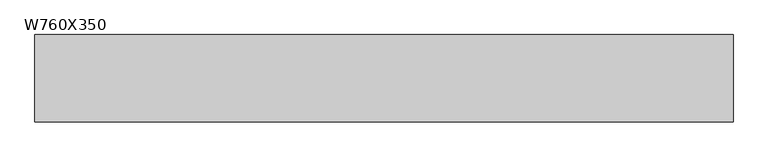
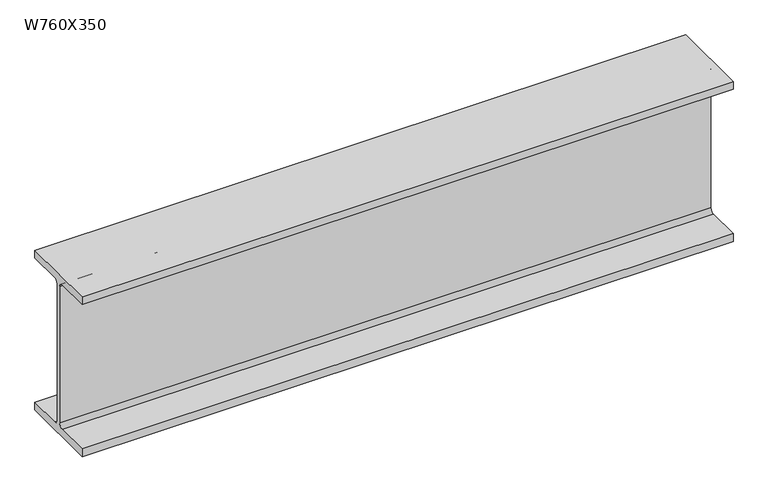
"""IFC4 building model written with IfcOpenShell, lengths in millimetres: beam geometry, M_W Shapes : W760X350."""

import ifcopenshell
import ifcopenshell.guid

model = None  # the IFC model being written
_history = None  # IfcOwnerHistory: only IFC2X3 demands one
_inside = {}  # id of a spatial element -> (the spatial element, [elements in it])
_under = {}  # id of a project, library or spatial element -> (it, [spatial elements below it])
_declared = {}  # id of a project -> (the project, [libraries it declares])
_typed = {}  # id of a type object -> (the type object, [elements of that type])
_made_of = {}  # id of a material, layer set ... -> (it, [elements and type objects made of it])


def new_model(schema):
    """Start an empty IFC model of exactly this schema.

    Asked for "IFC4X3", IfcOpenShell would pick the latest addendum, in which some entities
    have other attributes; the version numbers below select the first issue.
    IFC2X3 requires an IfcOwnerHistory on every rooted entity: one is made here for all.
    """
    global model, _history
    if schema == "IFC4X3":
        model = ifcopenshell.file(schema_version=(4, 3, 0, 0))
    else:
        model = ifcopenshell.file(schema=schema)
    _inside.clear()
    _under.clear()
    _declared.clear()
    _typed.clear()
    _made_of.clear()
    _history = None
    if model.schema == "IFC2X3":
        org = make("IfcOrganization", Name="unknown")
        user = make(
            "IfcPersonAndOrganization",
            ThePerson=make("IfcPerson", FamilyName="unknown"),
            TheOrganization=org,
        )
        app = make(
            "IfcApplication",
            ApplicationDeveloper=org,
            Version="unknown",
            ApplicationFullName="unknown",
            ApplicationIdentifier="unknown",
        )
        _history = make(
            "IfcOwnerHistory",
            OwningUser=user,
            OwningApplication=app,
            ChangeAction="ADDED",
            CreationDate=0,
        )
    return model


def make(cls, **values):
    """One entity of the class cls with the attributes given. An attribute that is None is left unset."""
    return model.create_entity(
        cls, **{name: value for name, value in values.items() if value is not None}
    )


def rooted(cls, **values):
    """An entity with a GlobalId (a new one), such as an element, a storey or a relation."""
    return make(cls, GlobalId=ifcopenshell.guid.new(), OwnerHistory=_history, **values)


def si_unit(unit_type, name, prefix=None):
    """IfcSIUnit, for example si_unit("LENGTHUNIT", "METRE", prefix="MILLI")."""
    return make("IfcSIUnit", UnitType=unit_type, Prefix=prefix, Name=name)


def assignment(units):
    """IfcUnitAssignment: the units of a project."""
    return None if units is None else make("IfcUnitAssignment", Units=units)


def point(xyz):
    """IfcCartesianPoint."""
    return None if xyz is None else make("IfcCartesianPoint", Coordinates=xyz)


def direction(xyz):
    """IfcDirection."""
    return None if xyz is None else make("IfcDirection", DirectionRatios=xyz)


def frame(location, z_axis=None, x_axis=None):
    """IfcAxis2Placement3D, a coordinate frame: its origin and axes. An axis left out is left unset."""
    return make(
        "IfcAxis2Placement3D",
        Location=point(location),
        Axis=direction(z_axis),
        RefDirection=direction(x_axis),
    )


def frame_2d(location, x_axis=None):
    """IfcAxis2Placement2D, a coordinate frame in the plane: its origin and x axis."""
    return make(
        "IfcAxis2Placement2D", Location=point(location), RefDirection=direction(x_axis)
    )


def origin():
    """The frame at (0, 0, 0) with its axes left unset."""
    return frame((0.0, 0.0, 0.0))


def place(relative_to, where):
    """IfcLocalPlacement: puts the frame where relative to a parent placement (None: the world)."""
    return make(
        "IfcLocalPlacement", PlacementRelTo=relative_to, RelativePlacement=where
    )


def context(
    kind, dimensions, precision=None, world=None, true_north=None, identifier=None
):
    """IfcGeometricRepresentationContext, for example the 3D "Model" context."""
    return make(
        "IfcGeometricRepresentationContext",
        ContextIdentifier=identifier,
        ContextType=kind,
        CoordinateSpaceDimension=dimensions,
        Precision=precision,
        WorldCoordinateSystem=world,
        TrueNorth=true_north,
    )


def project(units=None, contexts=None):
    """IfcProject with its units and contexts."""
    return rooted(
        "IfcProject",
        Name="project",
        RepresentationContexts=contexts,
        UnitsInContext=assignment(units),
    )


def spatial(cls, under=None, at=None, **own):
    """A site, building, storey or space (cls), placed at a placement, below another one or the project."""
    s = rooted(cls, ObjectPlacement=at, **own)
    if under is not None:
        _under.setdefault(under.id(), (under, []))[1].append(s)
    return s


def polyline(points):
    """IfcPolyline through the points."""
    return make("IfcPolyline", Points=[point(p) for p in points])


def circle_curve(where, radius):
    """IfcCircle in the frame where."""
    return make("IfcCircle", Position=where, Radius=radius)


def trimmed(basis, trim1, trim2, sense, master):
    """IfcTrimmedCurve: the piece of a basis curve between two trims."""
    return make(
        "IfcTrimmedCurve",
        BasisCurve=basis,
        Trim1=trim1,
        Trim2=trim2,
        SenseAgreement=sense,
        MasterRepresentation=master,
    )


def segment(curve, same_sense, transition):
    """IfcCompositeCurveSegment."""
    return make(
        "IfcCompositeCurveSegment",
        Transition=transition,
        SameSense=same_sense,
        ParentCurve=curve,
    )


def composite_curve(segments, self_intersect=None):
    """IfcCompositeCurve: segments joined end to end."""
    return make("IfcCompositeCurve", Segments=segments, SelfIntersect=self_intersect)


def outline(outer, holes=None, kind="AREA"):
    """IfcArbitraryClosedProfileDef: a profile drawn as a closed curve; with holes, ...WithVoids."""
    if holes is None:
        return make("IfcArbitraryClosedProfileDef", ProfileType=kind, OuterCurve=outer)
    return make(
        "IfcArbitraryProfileDefWithVoids",
        ProfileType=kind,
        OuterCurve=outer,
        InnerCurves=holes,
    )


def extrude(swept, where, along, depth):
    """IfcExtrudedAreaSolid: the profile swept, set in the frame where, extruded along a direction by depth."""
    return make(
        "IfcExtrudedAreaSolid",
        SweptArea=swept,
        Position=where,
        ExtrudedDirection=direction(along),
        Depth=depth,
    )


def shape(context_of_items, identifier, shape_type, items):
    """IfcShapeRepresentation: the items that make up one representation, for example the "Body"."""
    return make(
        "IfcShapeRepresentation",
        ContextOfItems=context_of_items,
        RepresentationIdentifier=identifier,
        RepresentationType=shape_type,
        Items=items,
    )


def source(mapping_origin, context_of_items, identifier, shape_type, items):
    """IfcRepresentationMap: a shape defined once, which mapped items show again and again."""
    return make(
        "IfcRepresentationMap",
        MappingOrigin=mapping_origin,
        MappedRepresentation=shape(context_of_items, identifier, shape_type, items),
    )


def transform(
    local_origin,
    x_axis=None,
    y_axis=None,
    z_axis=None,
    scale=None,
    scale2=None,
    scale3=None,
    uniform=True,
):
    """IfcCartesianTransformationOperator3D, or its non-uniform kind. x_axis, y_axis, z_axis: its Axis1, 2, 3."""
    if uniform:
        return make(
            "IfcCartesianTransformationOperator3D",
            Axis1=direction(x_axis),
            Axis2=direction(y_axis),
            LocalOrigin=point(local_origin),
            Scale=scale,
            Axis3=direction(z_axis),
        )
    return make(
        "IfcCartesianTransformationOperator3DnonUniform",
        Axis1=direction(x_axis),
        Axis2=direction(y_axis),
        LocalOrigin=point(local_origin),
        Scale=scale,
        Axis3=direction(z_axis),
        Scale2=scale2,
        Scale3=scale3,
    )


def mapped(mapping_source, mapping_target):
    """IfcMappedItem: shows the shape of a source again, moved by a transform."""
    return make(
        "IfcMappedItem", MappingSource=mapping_source, MappingTarget=mapping_target
    )


def made_of(thing, what):
    """Note that an element or type object is made of a material, layer set ...; save() writes the relation."""
    if what is not None:
        _made_of.setdefault(what.id(), (what, []))[1].append(thing)
    return thing


def element(
    cls,
    number,
    at=None,
    inside=None,
    cuts=None,
    type_object=None,
    material=None,
    context=None,
    identifier="Body",
    shape_type=None,
    held_by="IfcProductDefinitionShape",
    body=None,
    shapes=None,
    **own,
):
    """One element of the class cls, such as IfcWall. Its Tag is "e" and its number.

    at: its placement. inside: the storey or other place that contains it. cuts: it is an
    opening in that element (IfcRelVoidsElement). A single representation is given by context,
    identifier, shape_type and body (its items); several are given by shapes. held_by: the class
    of the entity that holds the representations. save() writes the other relations.
    """
    e = rooted(cls, Tag="e%d" % number, ObjectPlacement=at, **own)
    if body is not None:
        shapes = [shape(context, identifier, shape_type, body)]
    if shapes is not None:
        e.Representation = make(held_by, Representations=shapes)
    if inside is not None:
        _inside.setdefault(inside.id(), (inside, []))[1].append(e)
    if cuts is not None:
        rooted(
            "IfcRelVoidsElement", RelatingBuildingElement=cuts, RelatedOpeningElement=e
        )
    if type_object is not None:
        _typed.setdefault(type_object.id(), (type_object, []))[1].append(e)
    return made_of(e, material)


def aggregate(whole, parts):
    """IfcRelAggregates: a whole, such as a stair, and the parts it consists of."""
    return rooted("IfcRelAggregates", RelatingObject=whole, RelatedObjects=parts)


def save(model, path):
    """Write the relations noted so far, then the file.

    IfcRelAggregates (storeys below a building ...), IfcRelContainedInSpatialStructure (elements
    in a storey), IfcRelDefinesByType, IfcRelAssociatesMaterial and IfcRelDeclares: one each for
    every whole, place, type object, material and project.
    """
    for whole, parts in _under.values():
        aggregate(whole, parts)
    for where, things in _inside.values():
        rooted(
            "IfcRelContainedInSpatialStructure",
            RelatedElements=things,
            RelatingStructure=where,
        )
    for kind, things in _typed.values():
        rooted("IfcRelDefinesByType", RelatedObjects=things, RelatingType=kind)
    for what, things in _made_of.values():
        rooted("IfcRelAssociatesMaterial", RelatedObjects=things, RelatingMaterial=what)
    for by, libraries in _declared.values():
        rooted("IfcRelDeclares", RelatingContext=by, RelatedDefinitions=libraries)
    model.write(path)


def w760x350_4cdc6c1b(model_context):
    return source(origin(), model_context, "Body", "SweptSolid", [
        extrude(outline(composite_curve([segment(polyline([(192.0, -359.4), (192.0, -397.5), (-192.0, -397.5), (-192.0, -359.4), (-30.65, -359.4)]), True, "CONTINUOUS"), segment(trimmed(circle_curve(frame_2d((-30.65, -339.3)), 20.1), [point((-30.65, -359.4))], [point((-10.55, -339.3))], True, "CARTESIAN"), True, "CONTINUOUS"), segment(polyline([(-10.55, -339.3), (-10.55, 339.3)]), True, "CONTINUOUS"), segment(trimmed(circle_curve(frame_2d((-30.65, 339.3)), 20.1), [point((-10.55, 339.3))], [point((-30.65, 359.4))], True, "CARTESIAN"), True, "CONTINUOUS"), segment(polyline([(-30.65, 359.4), (-192.0, 359.4), (-192.0, 397.5), (192.0, 397.5), (192.0, 359.4), (30.65, 359.4)]), True, "CONTINUOUS"), segment(trimmed(circle_curve(frame_2d((30.65, 339.3)), 20.1), [point((30.65, 359.4))], [point((10.55, 339.3))], True, "CARTESIAN"), True, "CONTINUOUS"), segment(polyline([(10.55, 339.3), (10.55, -339.3)]), True, "CONTINUOUS"), segment(trimmed(circle_curve(frame_2d((30.65, -339.3)), 20.1), [point((10.55, -339.3))], [point((30.65, -359.4))], True, "CARTESIAN"), True, "CONTINUOUS"), segment(polyline([(30.65, -359.4), (192.0, -359.4)]), True, "CONTINUOUS")], self_intersect=False)), frame((-1531.6, 0.0, 0.0), z_axis=(1.0, 0.0, 0.0), x_axis=(0.0, 1.0, 0.0)), (0.0, 0.0, 1.0), 3063.2),
    ])


if __name__ == "__main__":
    model = new_model("IFC4")
    model_context = context("Model", 3, world=origin())
    ifc_project = project(units=[si_unit("LENGTHUNIT", "METRE", prefix="MILLI")], contexts=[model_context])
    site = spatial("IfcSite", under=ifc_project)
    building = spatial("IfcBuilding", under=site)
    placement = place(None, origin())
    w760x350_shape = w760x350_4cdc6c1b(model_context)
    element("IfcBeam", 1, ObjectType="M_W Shapes : W760X350", at=placement, inside=building, context=model_context, shape_type="MappedRepresentation", body=[
        mapped(w760x350_shape, transform((0.0, 0.0, 0.0), x_axis=(1.0, 0.0, 0.0), y_axis=(0.0, 1.0, 0.0), z_axis=(0.0, 0.0, 1.0))),
    ])
    save(model, "model.ifc")
